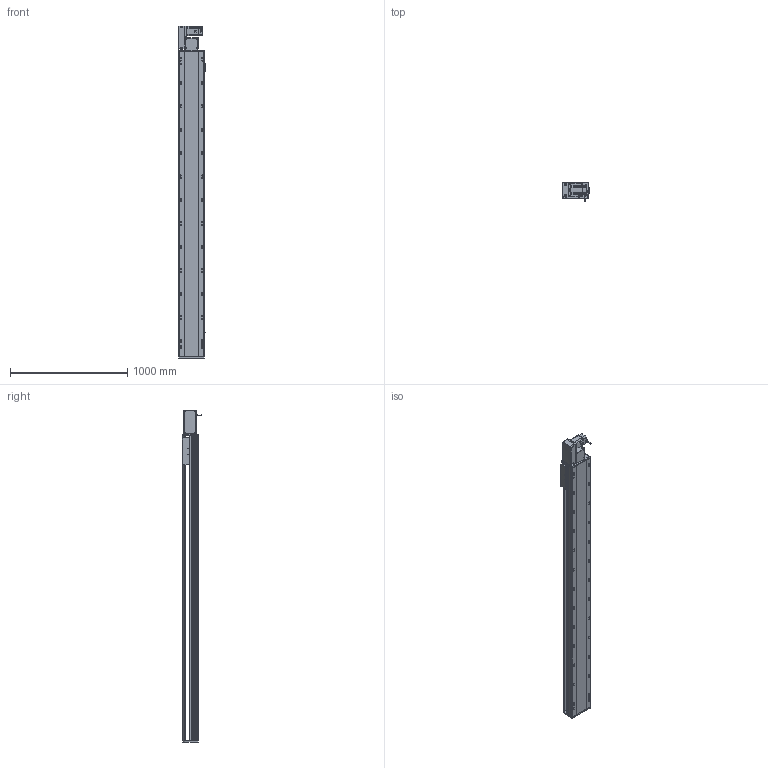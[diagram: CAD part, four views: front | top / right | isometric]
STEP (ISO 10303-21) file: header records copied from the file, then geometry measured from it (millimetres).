
FILE_DESCRIPTION (( 'STEP AP214' ), '1' );
FILE_NAME ('RTB22S-XX-2250-L-M75-C4.STEP', '2025-12-12T03:26:10', ( '' ), ( '' ), 'SwSTEP 2.0', 'SolidWorks 2018', '' );
FILE_SCHEMA (( 'AUTOMOTIVE_DESIGN' ));
Length unit declared in the file: millimetre
Products named in the file (14): RTB22S-GY-018P^RTB22S-L-々湍釱蚾饜_RTB22S-XX-XX-L-M75-C4; RTH22-GY-013外置感应片^RTB22S-XX-XX-L-M75-C4; OMRON EE-SX672 传感器^RTB22S-XX-XX-L-M75-C4; RTB22S-GY-008-M75--萇儂啣^RTB22S-L-々湍釱蚾饜_RTB22S-XX-XX-L-M75-C4; RTB22S-GY-005P^RTB22S-L-々湍釱蚾饜_RTB22S-XX-XX-L-M75-C4; RTB22S-XX-2250-L-M75-C4; RTB22S-GY-017P^RTB22S-L-々湍釱蚾饜_RTB22S-XX-XX-L-M75-C4; RTB22S-GY-014--々湍釱^RTB22S-L-々湍釱蚾饜_RTB22S-XX-XX-L-M75-C4; RTB22S-L-004賑釱^RTB22S-XX-XX-L-M75-C4; RTB22S-L-011菁釱^RTB22S-XX-XX-L-M75-C4; 750W萇儂^RTB22S-XX-XX-L-M75-C4; RTB22S-GY-007奻裔^RTB22S-XX-XX-L-M75-C4; RTB22S-L-々湍釱蚾饜^RTB22S-XX-XX-L-M75-C4; RTB22S-GY-001耜裔^RTB22S-XX-XX-L-M75-C4
Assembly tree (16 placements, depth 3):
  RTB22S-XX-2250-L-M75-C4
    RTB22S-L-011菁釱^RTB22S-XX-XX-L-M75-C4
    750W萇儂^RTB22S-XX-XX-L-M75-C4
    RTB22S-L-004賑釱^RTB22S-XX-XX-L-M75-C4
    OMRON EE-SX672 传感器^RTB22S-XX-XX-L-M75-C4  x3
    RTH22-GY-013外置感应片^RTB22S-XX-XX-L-M75-C4
    RTB22S-GY-007奻裔^RTB22S-XX-XX-L-M75-C4
    RTB22S-GY-001耜裔^RTB22S-XX-XX-L-M75-C4
    RTB22S-L-々湍釱蚾饜^RTB22S-XX-XX-L-M75-C4
      RTB22S-GY-014--々湍釱^RTB22S-L-々湍釱蚾饜_RTB22S-XX-XX-L-M75-C4
      RTB22S-GY-017P^RTB22S-L-々湍釱蚾饜_RTB22S-XX-XX-L-M75-C4  x2
      RTB22S-GY-005P^RTB22S-L-々湍釱蚾饜_RTB22S-XX-XX-L-M75-C4
      RTB22S-GY-008-M75--萇儂啣^RTB22S-L-々湍釱蚾饜_RTB22S-XX-XX-L-M75-C4
      RTB22S-GY-018P^RTB22S-L-々湍釱蚾饜_RTB22S-XX-XX-L-M75-C4
Bounding box: 238.5 x 162.7 x 2829 mm (x, y, z)
Volume: 35847626 mm3; surface area: 3673819.7 mm2
Topology: 15 solids, 15 shells, 2091 faces, 5686 edges, 3632 vertices
Faces by surface type: plane 927, cylinder 694, bspline 296, cone 162, sphere 8, torus 4
Entity records: 56716 total; most frequent: CARTESIAN_POINT 16060, ORIENTED_EDGE 8112, DIRECTION 7910, EDGE_CURVE 4056, AXIS2_PLACEMENT_3D 2830, VERTEX_POINT 2636, VECTOR 2250, LINE 2250
